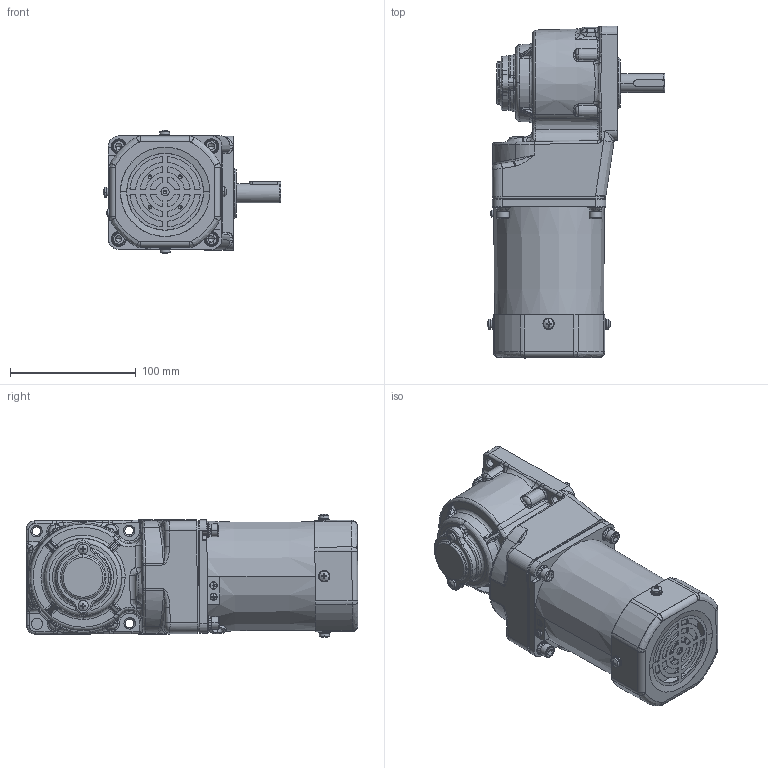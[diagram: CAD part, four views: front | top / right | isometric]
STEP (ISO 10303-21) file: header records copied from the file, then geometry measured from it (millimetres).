
FILE_DESCRIPTION (( 'STEP AP203' ), '1' );
FILE_NAME ('5IK60GU-CF(5GU3RT-180RT)ÐÂ.STEP', '2022-02-24T02:31:42', ( 'PC' ), ( 'Microsoft' ), 'SwSTEP 2.0', 'SolidWorks 2014', '' );
FILE_SCHEMA (( 'CONFIG_CONTROL_DESIGN' ));
Length unit declared in the file: millimetre
Products named in the file (9): 90RT妗陑怀堤傷裔; hexagon socket head cap screws gb_GB_FASTENER_SCREWS_HSHCS M5X12-N; cross recessed pan head screws gb_GB_CROSS_SCREWS_TYPE1 M4X6-6  H type-N; 5IK60GU-CF(5GU3RT-180RT); 5IK60GU-CF(5GU3RT-180RT)陔; zd-5gu-50rc-504-001m#眊极禱矗 2021-12-07 - 萵掛; 90妗陑怀堤粣; 90壔裔; ZD-5GU50RC-505-003綴傷裔
Assembly tree (12 placements, depth 2):
  5IK60GU-CF(5GU3RT-180RT)陔
    zd-5gu-50rc-504-001m#眊极禱矗 2021-12-07 - 萵掛
    90妗陑怀堤粣
    90壔裔
    ZD-5GU50RC-505-003綴傷裔
    90RT妗陑怀堤傷裔
    hexagon socket head cap screws gb_GB_FASTENER_SCREWS_HSHCS M5X12-N  x4
    cross recessed pan head screws gb_GB_CROSS_SCREWS_TYPE1 M4X6-6  H type-N  x2
    5IK60GU-CF(5GU3RT-180RT)
Bounding box: 141.25 x 263.46 x 98.12 mm (x, y, z)
Volume: 805118.7 mm3; surface area: 203598.4 mm2
Topology: 35 solids, 45 shells, 2222 faces, 5478 edges, 3302 vertices
Faces by surface type: plane 672, cylinder 559, bspline 482, cone 410, torus 93, sphere 6
Entity records: 89372 total; most frequent: CARTESIAN_POINT 41988, ORIENTED_EDGE 10268, DIRECTION 8948, EDGE_CURVE 5135, AXIS2_PLACEMENT_3D 3553, VERTEX_POINT 3162, EDGE_LOOP 2272, FACE_OUTER_BOUND 2123
